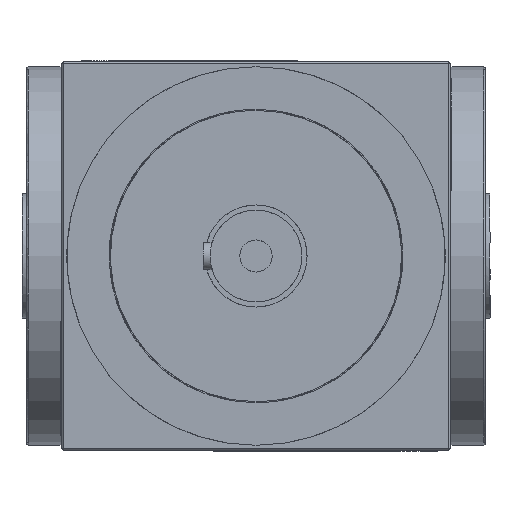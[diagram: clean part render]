
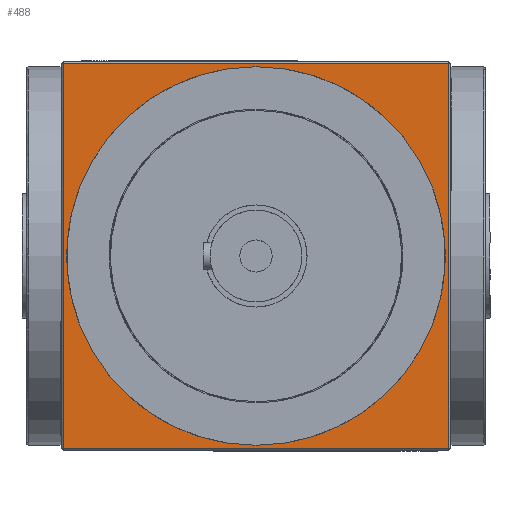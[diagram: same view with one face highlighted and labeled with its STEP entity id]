
A CAD part, front view. The second image highlights one B-rep face of the part: STEP entity #488.
In plain terms, the highlighted planar face has unit normal (0, -1, 0).
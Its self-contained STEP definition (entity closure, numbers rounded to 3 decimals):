
#273 = LINE ( 'NONE', #1984, #14876 ) ;
#488 = ADVANCED_FACE ( 'NONE', ( #6093, #6181 ), #9664, .F. ) ;
#605 = CARTESIAN_POINT ( 'NONE',  ( 0., -85., 82.5 ) ) ;
#958 = ORIENTED_EDGE ( 'NONE', *, *, #6618, .F. ) ;
#1952 = DIRECTION ( 'NONE',  ( -1., 0., 0. ) ) ;
#1984 = CARTESIAN_POINT ( 'NONE',  ( 84., -85., -84. ) ) ;
#2518 = AXIS2_PLACEMENT_3D ( 'NONE', #9547, #9483, #9520 ) ;
#2668 = AXIS2_PLACEMENT_3D ( 'NONE', #3692, #3677, #3657 ) ;
#2685 = VERTEX_POINT ( 'NONE', #3364 ) ;
#3040 = AXIS2_PLACEMENT_3D ( 'NONE', #3596, #3517, #3504 ) ;
#3364 = CARTESIAN_POINT ( 'NONE',  ( -84., -85., 84. ) ) ;
#3450 = ORIENTED_EDGE ( 'NONE', *, *, #7387, .F. ) ;
#3504 = DIRECTION ( 'NONE',  ( 0., 0., 1. ) ) ;
#3517 = DIRECTION ( 'NONE',  ( 0., -1., 0. ) ) ;
#3596 = CARTESIAN_POINT ( 'NONE',  ( 0., -85., 0. ) ) ;
#3657 = DIRECTION ( 'NONE',  ( 0., 0., 1. ) ) ;
#3677 = DIRECTION ( 'NONE',  ( 0., -1., 0. ) ) ;
#3692 = CARTESIAN_POINT ( 'NONE',  ( 0., -85., 0. ) ) ;
#3835 = VECTOR ( 'NONE', #9823, 1000. ) ;
#4491 = VECTOR ( 'NONE', #12625, 1000. ) ;
#4966 = ORIENTED_EDGE ( 'NONE', *, *, #10568, .F. ) ;
#5858 = VERTEX_POINT ( 'NONE', #7116 ) ;
#6093 = FACE_BOUND ( 'NONE', #8343, .T. ) ;
#6181 = FACE_OUTER_BOUND ( 'NONE', #7823, .T. ) ;
#6618 = EDGE_CURVE ( 'NONE', #13973, #5858, #10647, .T. ) ;
#7116 = CARTESIAN_POINT ( 'NONE',  ( 84., -85., -84. ) ) ;
#7387 = EDGE_CURVE ( 'NONE', #2685, #13973, #13157, .T. ) ;
#7823 = EDGE_LOOP ( 'NONE', ( #4966, #13656, #958, #3450 ) ) ;
#7829 = EDGE_CURVE ( 'NONE', #10805, #8180, #9330, .T. ) ;
#8180 = VERTEX_POINT ( 'NONE', #605 ) ;
#8343 = EDGE_LOOP ( 'NONE', ( #14830, #12821 ) ) ;
#8355 = CARTESIAN_POINT ( 'NONE',  ( -84., -85., -84. ) ) ;
#8376 = LINE ( 'NONE', #12652, #4491 ) ;
#9330 = CIRCLE ( 'NONE', #2668, 82.5 ) ;
#9483 = DIRECTION ( 'NONE',  ( 0., 1., 0. ) ) ;
#9520 = DIRECTION ( 'NONE',  ( 0., 0., 1. ) ) ;
#9547 = CARTESIAN_POINT ( 'NONE',  ( -84., -85., -84. ) ) ;
#9664 = PLANE ( 'NONE',  #2518 ) ;
#9823 = DIRECTION ( 'NONE',  ( 1., 0., 0. ) ) ;
#9833 = CARTESIAN_POINT ( 'NONE',  ( -84., -85., 84. ) ) ;
#9945 = CARTESIAN_POINT ( 'NONE',  ( 84., -85., -84. ) ) ;
#10086 = DIRECTION ( 'NONE',  ( 0., 0., -1. ) ) ;
#10189 = CIRCLE ( 'NONE', #3040, 82.5 ) ;
#10286 = VECTOR ( 'NONE', #10086, 1000. ) ;
#10568 = EDGE_CURVE ( 'NONE', #11126, #2685, #8376, .T. ) ;
#10647 = LINE ( 'NONE', #9945, #10286 ) ;
#10724 = CARTESIAN_POINT ( 'NONE',  ( 0., -85., -82.5 ) ) ;
#10805 = VERTEX_POINT ( 'NONE', #10724 ) ;
#11126 = VERTEX_POINT ( 'NONE', #8355 ) ;
#11371 = EDGE_CURVE ( 'NONE', #8180, #10805, #10189, .T. ) ;
#11592 = EDGE_CURVE ( 'NONE', #5858, #11126, #273, .T. ) ;
#12625 = DIRECTION ( 'NONE',  ( 0., 0., 1. ) ) ;
#12652 = CARTESIAN_POINT ( 'NONE',  ( -84., -85., -84. ) ) ;
#12821 = ORIENTED_EDGE ( 'NONE', *, *, #7829, .F. ) ;
#13157 = LINE ( 'NONE', #9833, #3835 ) ;
#13318 = CARTESIAN_POINT ( 'NONE',  ( 84., -85., 84. ) ) ;
#13656 = ORIENTED_EDGE ( 'NONE', *, *, #11592, .F. ) ;
#13973 = VERTEX_POINT ( 'NONE', #13318 ) ;
#14830 = ORIENTED_EDGE ( 'NONE', *, *, #11371, .F. ) ;
#14876 = VECTOR ( 'NONE', #1952, 1000. ) ;
